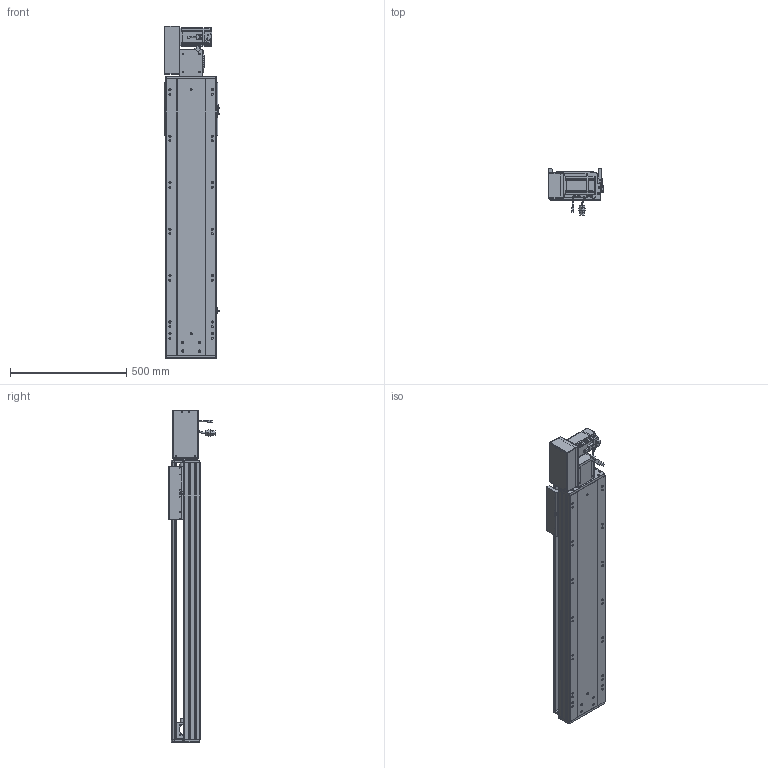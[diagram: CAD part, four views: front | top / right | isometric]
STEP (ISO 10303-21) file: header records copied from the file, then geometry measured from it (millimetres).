
FILE_DESCRIPTION (( 'STEP AP203' ), '1' );
FILE_NAME ('RY220-T-300-LK.SLDASM_850.step', '2022-07-25T08:13:41', ( '' ), ( '' ), 'SwSTEP 2.0', 'SolidWorks 2016', '' );
FILE_SCHEMA (( 'CONFIG_CONTROL_DESIGN' ));
Length unit declared in the file: millimetre
Products named in the file (14): RY220翋肮祭謫裔啣; RY220翋肮祭謫釱; RY220-T-蛌殏萇儂假蚾啣(750W); RY220圉猾敕々湍臏賑輸; 覜茼ん672; RY220-T-湍謫欶(鍼踢); 怢湛750W_ECMA-CX0807ES; RY220-同步轮副支撑座6304×2; 滅袉蝶18-15; RY220-T-300-奻裔啣_850; 110A-T-肮祭謫釱傷裔; RY220-T菁釱-300_850; RY220-俋离672覜茼んえ; RY220-T-300-LK.SLDASM_850
Assembly tree (18 placements, depth 2):
  RY220-T-300-LK.SLDASM_850
    RY220-T菁釱-300_850
    RY220翋肮祭謫釱
    覜茼ん672  x3
    RY220圉猾敕々湍臏賑輸
    RY220-T-300-奻裔啣_850
    RY220-俋离672覜茼んえ
    滅袉蝶18-15  x3
    RY220翋肮祭謫裔啣  x2
    110A-T-肮祭謫釱傷裔
    怢湛750W_ECMA-CX0807ES
    RY220-T-湍謫欶(鍼踢)
    RY220-T-蛌殏萇儂假蚾啣(750W)
    RY220-同步轮副支撑座6304×2
Bounding box: 239.7 x 198.77 x 1429 mm (x, y, z)
Volume: 11286359.4 mm3; surface area: 3264457.7 mm2
Topology: 19 solids, 19 shells, 2600 faces, 7175 edges, 4560 vertices
Faces by surface type: cylinder 1212, plane 1069, cone 237, bspline 56, sphere 16, torus 10
Entity records: 86563 total; most frequent: CARTESIAN_POINT 24751, ORIENTED_EDGE 12858, DIRECTION 12116, EDGE_CURVE 6429, AXIS2_PLACEMENT_3D 4274, VERTEX_POINT 4184, LINE 3568, VECTOR 3568
